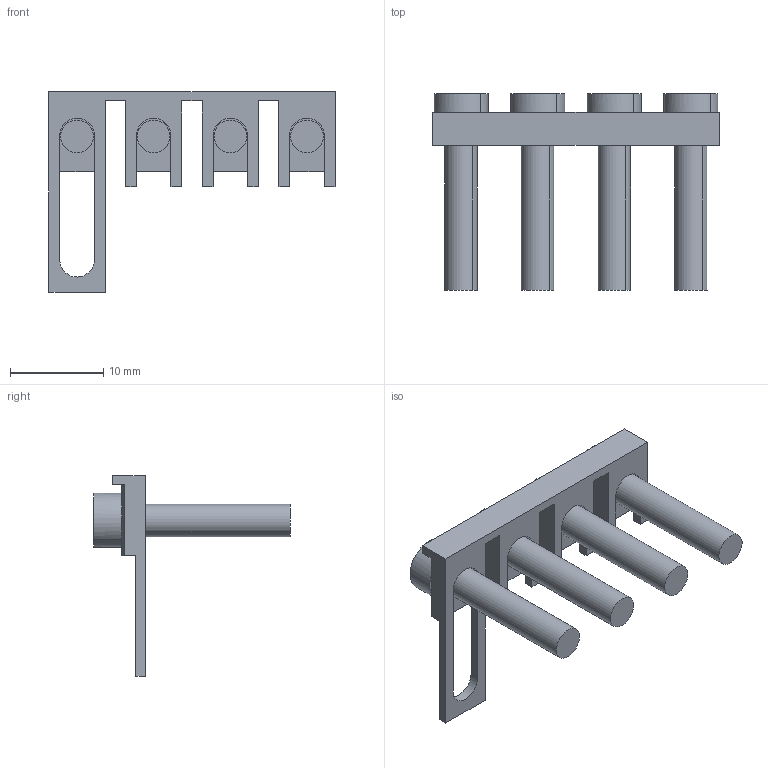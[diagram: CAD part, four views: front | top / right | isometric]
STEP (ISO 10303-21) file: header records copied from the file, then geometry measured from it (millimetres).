
FILE_DESCRIPTION( ('This file contains a STEP AP42 implementation' ,'as created by ZW3D STEP Interface translator.') ,'2;1' );
FILE_NAME( 'USB4-RTK-S开关桥接件-模型.stp' ,'231227.17 2 5', (''), ('ZWCAD Software Co.'), 'Version 1.0', 'ZW3D to STEP translator', '' );
FILE_SCHEMA(('AUTOMOTIVE_DESIGN { 1 0 10303 214 1 1 1 1 }'));
Length unit declared in the file: millimetre
Products named in the file (2): 0; SB_4_RTK_S-select
Bounding box: 30.6 x 21 x 21.5 mm (x, y, z)
Volume: 1453.1 mm3; surface area: 2016.2 mm2
Topology: 1 solids, 1 shells, 115 faces, 294 edges, 188 vertices
Faces by surface type: plane 94, cylinder 21
Entity records: 3583 total; most frequent: CARTESIAN_POINT 598, ORIENTED_EDGE 588, DIRECTION 584, EDGE_CURVE 294, VECTOR 236, LINE 236, VERTEX_POINT 188, AXIS2_PLACEMENT_3D 174
